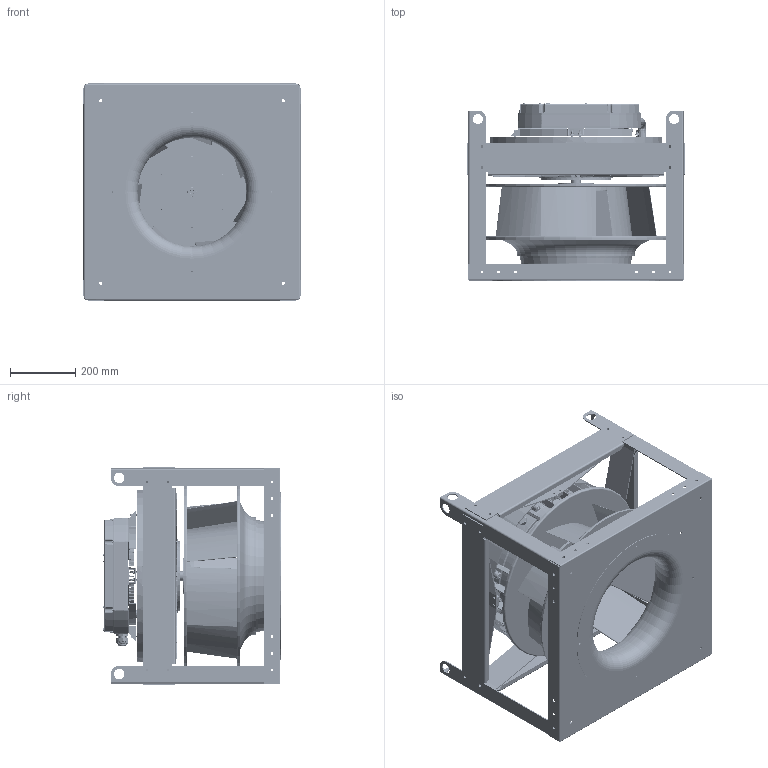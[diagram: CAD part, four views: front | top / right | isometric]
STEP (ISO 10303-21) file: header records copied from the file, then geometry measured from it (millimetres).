
FILE_DESCRIPTION (( 'STEP AP214' ), '1' );
FILE_NAME ('655781.STEP', '2026-04-07T20:38:50', ( '' ), ( '' ), 'SwSTEP 2.0', 'SolidWorks 2023', '' );
FILE_SCHEMA (( 'AUTOMOTIVE_DESIGN' ));
Length unit declared in the file: inch
Products named in the file (8): 655781; 768037CS_768037CS; 925959CS_925959CS; 651564_651564; 651547_651547; 651583_651583; 768049CS_768049CS; SXPI STRAP_651579
Assembly tree (16 placements, depth 2):
  655781
    651547_651547
    651564_651564  x4
    651583_651583  x4
    SXPI STRAP_651579  x4
    925959CS_925959CS
    768037CS_768037CS
    768049CS_768049CS
Bounding box: 663.7 x 544.18 x 663.7 mm (x, y, z)
Volume: 6558871.5 mm3; surface area: 6107768.9 mm2
Topology: 26 solids, 318 shells, 3938 faces, 12586 edges, 8658 vertices
Faces by surface type: plane 1137, cylinder 1085, bspline 1013, cone 329, torus 306, sphere 68
Full cylindrical faces by diameter (mm): 2.9 x2, 3.962 x4, 5.105 x16, 6 x37, 7 x5, 7.137 x16, 7.544 x1, 7.937 x3, 7.938 x1, 8.5 x1, 8.738 x87, 9 x4, 9.73 x8, 10 x8, 10.1 x1, 11.8 x16, 12.5 x1, 12.6 x1, 13 x15, 14 x1, 17.462 x2, 17.463 x2, 23.5 x1, 23.92 x1, 24.282 x1, 25.5 x3, 26.2 x1, 26.35 x1, 26.416 x2, 26.5 x1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
Entity records: 269585 total; most frequent: CARTESIAN_POINT 180140, ORIENTED_EDGE 17898, DIRECTION 15901, EDGE_CURVE 11337, VERTEX_POINT 8069, AXIS2_PLACEMENT_3D 6384, EDGE_LOOP 4457, B_SPLINE_CURVE_WITH_KNOTS 3905
